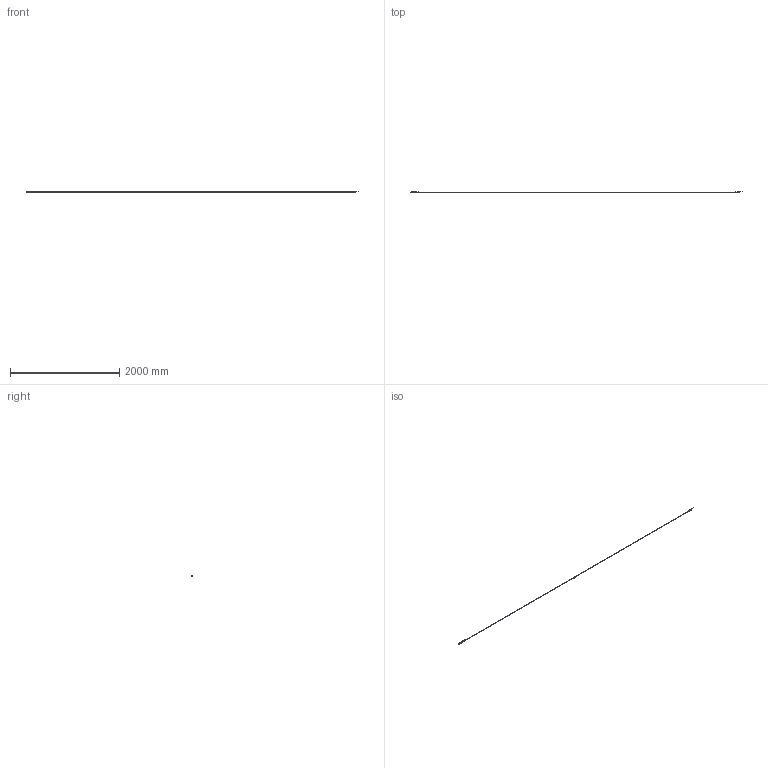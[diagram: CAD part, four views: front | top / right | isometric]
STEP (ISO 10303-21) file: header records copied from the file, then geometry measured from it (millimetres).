
FILE_DESCRIPTION(('Creo Elements/Direct Modeling STEP Export'),'2;1');
FILE_NAME('ITA-5920.stp','2025-01-30T 9:38:42',(''),(''),'Creo Elements/Direct Modeling STEP processor for AP214 (Solid Model)','Creo Elements/Direct Modeling 20.4A 18-Oct-2021 (C) Parametric Technology GmbH','');
FILE_SCHEMA(('AUTOMOTIVE_DESIGN { 1 0 10303 214 1 1 1 1 }'));
Length unit declared in the file: millimetre
Products named in the file (10): MAGNET_L1; MAGNET_L2; TAPE_5920; END_TAPE_1; END_TAPE_2; READING_HEAD_1; MAGNET_I0; READING_HEAD_2; ITA-5920; ITA-5920.stp
Assembly tree (9 placements, depth 3):
  ITA-5920.stp
    ITA-5920
      READING_HEAD_2
      MAGNET_I0
      READING_HEAD_1
      END_TAPE_2
      END_TAPE_1
      TAPE_5920
      MAGNET_L2
      MAGNET_L1
Bounding box: 6071.13 x 15.04 x 34.75 mm (x, y, z)
Volume: 58052.8 mm3; surface area: 141045.8 mm2
Topology: 8 solids, 8 shells, 1250 faces, 3430 edges, 2227 vertices
Faces by surface type: plane 908, cylinder 234, bspline 42, cone 32, torus 22, sphere 12
Entity records: 49179 total; most frequent: CARTESIAN_POINT 9939, ORIENTED_EDGE 6820, DIRECTION 6123, EDGE_CURVE 3410, VECTOR 2785, LINE 2785, VERTEX_POINT 2227, AXIS2_PLACEMENT_3D 1669
